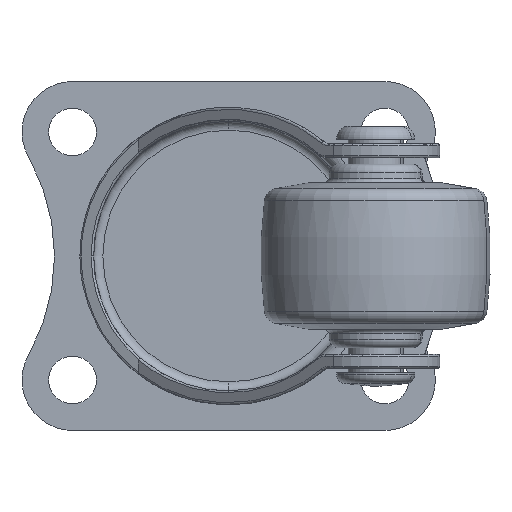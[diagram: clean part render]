
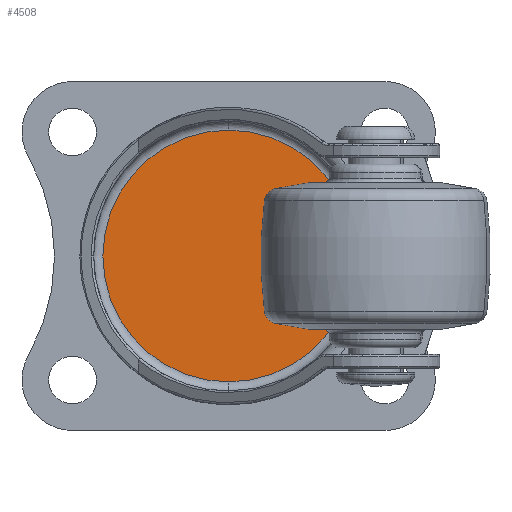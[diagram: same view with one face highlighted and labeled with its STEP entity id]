
A CAD part, front view. The second image highlights one B-rep face of the part: STEP entity #4508.
In plain terms, the highlighted planar face has unit normal (0, -1, 0).
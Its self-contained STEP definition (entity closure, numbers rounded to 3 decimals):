
#452 = CARTESIAN_POINT ( 'NONE',  ( 0., -0.061, 13.7 ) ) ;
#478 = DIRECTION ( 'NONE',  ( 0., 0., -1. ) ) ;
#899 = CARTESIAN_POINT ( 'NONE',  ( 0., -0.061, 14.7 ) ) ;
#954 = EDGE_CURVE ( 'NONE', #2585, #5375, #4389, .T. ) ;
#1493 = DIRECTION ( 'NONE',  ( 0., -1., 0. ) ) ;
#1528 = CARTESIAN_POINT ( 'NONE',  ( 0., -0.061, 0. ) ) ;
#1776 = AXIS2_PLACEMENT_3D ( 'NONE', #899, #2632, #478 ) ;
#1882 = FACE_OUTER_BOUND ( 'NONE', #4855, .T. ) ;
#2163 = PLANE ( 'NONE',  #1776 ) ;
#2272 = AXIS2_PLACEMENT_3D ( 'NONE', #2836, #2792, #2815 ) ;
#2324 = AXIS2_PLACEMENT_3D ( 'NONE', #1528, #1493, #2828 ) ;
#2585 = VERTEX_POINT ( 'NONE', #452 ) ;
#2632 = DIRECTION ( 'NONE',  ( 0., -1., 0. ) ) ;
#2792 = DIRECTION ( 'NONE',  ( 0., -1., 0. ) ) ;
#2815 = DIRECTION ( 'NONE',  ( 0., 0., -1. ) ) ;
#2828 = DIRECTION ( 'NONE',  ( 0., 0., -1. ) ) ;
#2836 = CARTESIAN_POINT ( 'NONE',  ( 0., -0.061, 0. ) ) ;
#3113 = CIRCLE ( 'NONE', #2272, 13.7 ) ;
#3281 = ORIENTED_EDGE ( 'NONE', *, *, #3640, .T. ) ;
#3342 = ORIENTED_EDGE ( 'NONE', *, *, #954, .T. ) ;
#3640 = EDGE_CURVE ( 'NONE', #5375, #2585, #3113, .T. ) ;
#4080 = CARTESIAN_POINT ( 'NONE',  ( 0., -0.061, -13.7 ) ) ;
#4389 = CIRCLE ( 'NONE', #2324, 13.7 ) ;
#4508 = ADVANCED_FACE ( 'NONE', ( #1882 ), #2163, .T. ) ;
#4855 = EDGE_LOOP ( 'NONE', ( #3281, #3342 ) ) ;
#5375 = VERTEX_POINT ( 'NONE', #4080 ) ;
